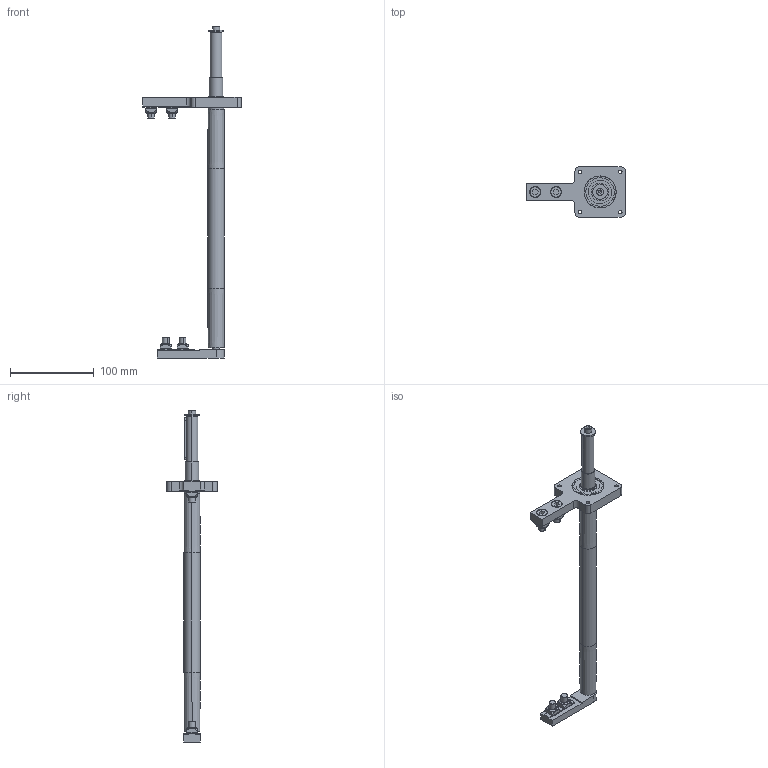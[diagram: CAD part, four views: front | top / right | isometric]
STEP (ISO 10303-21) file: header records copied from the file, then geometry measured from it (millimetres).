
FILE_DESCRIPTION (( 'STEP AP214' ), '1' );
FILE_NAME ('084.020.KD.30.265.STEP', '2021-02-05T13:47:52', ( '' ), ( '' ), 'SwSTEP 2.0', 'SolidWorks 2018', '' );
FILE_SCHEMA (( 'AUTOMOTIVE_DESIGN' ));
Length unit declared in the file: millimetre
Products named in the file (14): CHIAVETTE_A 5x5x50 UNI 6604-69; 084.800.001-1; Circlip DIN 471 - 8 x 0.8_Circlip DIN 471 - 8 x 0.8; 084.800.008; 084.800.007; 084.302.000 DADI ALUSIC 13x13-1_084.302.004; 084.800.022.265; 084.800.012; 084.020.KD.30.265; ISO 4762 M5 x 16 --- 16S_ISO 4762 M5 x 16 --- 16S; 084.800.002; 084.301.000 VITI ALUSIC_084.301.003; Washer ISO 7094 - 5_Washer ISO 7094 - 5; 084.802.016_084.802.016
Assembly tree (20 placements, depth 2):
  084.020.KD.30.265
    084.800.022.265
    084.800.001-1
    084.802.016_084.802.016
    084.301.000 VITI ALUSIC_084.301.003  x4
    084.302.000 DADI ALUSIC 13x13-1_084.302.004  x4
    084.800.012  x2
    084.800.008
    084.800.002
    084.800.007
    Washer ISO 7094 - 5_Washer ISO 7094 - 5
    ISO 4762 M5 x 16 --- 16S_ISO 4762 M5 x 16 --- 16S
    CHIAVETTE_A 5x5x50 UNI 6604-69
    Circlip DIN 471 - 8 x 0.8_Circlip DIN 471 - 8 x 0.8
Bounding box: 117.5 x 60 x 396 mm (x, y, z)
Volume: 170199.2 mm3; surface area: 66808.1 mm2
Topology: 21 solids, 22 shells, 600 faces, 1455 edges, 920 vertices
Faces by surface type: cylinder 209, plane 187, cone 106, torus 78, bspline 16, sphere 4
Entity records: 14277 total; most frequent: CARTESIAN_POINT 2672, DIRECTION 2508, ORIENTED_EDGE 2132, EDGE_CURVE 1066, AXIS2_PLACEMENT_3D 1019, VERTEX_POINT 677, CIRCLE 560, EDGE_LOOP 493
